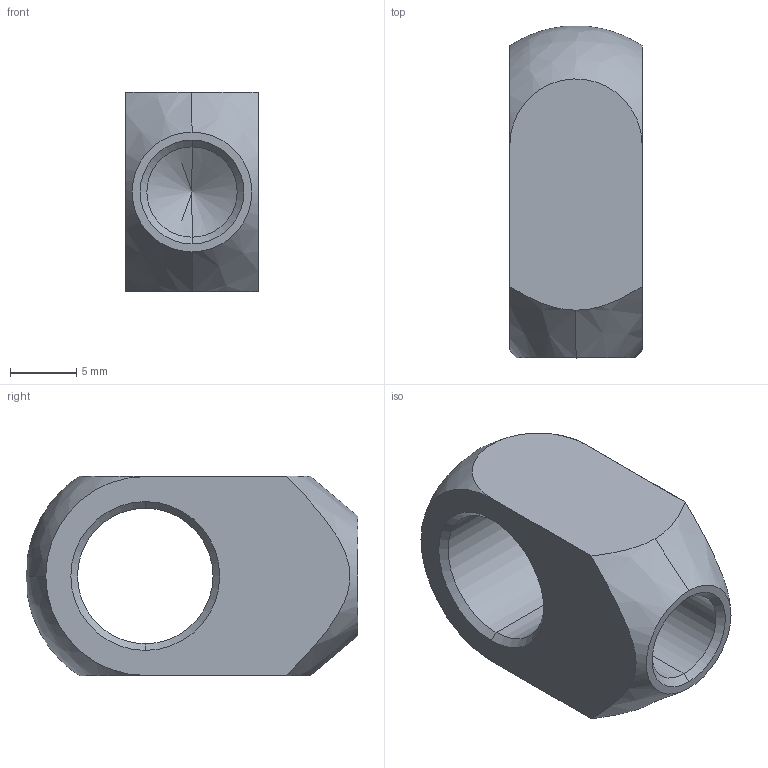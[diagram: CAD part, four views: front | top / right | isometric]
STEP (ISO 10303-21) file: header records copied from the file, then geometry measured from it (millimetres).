
FILE_DESCRIPTION (( 'STEP AP214' ), '1' );
FILE_NAME ('18.08A1FASEGAT10.2.STEP', '2017-10-21T13:03:26', ( '' ), ( '' ), 'SwSTEP 2.0', 'SolidWorks 2016', '' );
FILE_SCHEMA (( 'AUTOMOTIVE_DESIGN' ));
Length unit declared in the file: millimetre
Products named in the file (1): 18.08A1FASEGAT10.2
Bounding box: 10 x 24.97 x 15 mm (x, y, z)
Volume: 2163.3 mm3; surface area: 1603.6 mm2
Topology: 1 solids, 1 shells, 25 faces, 61 edges, 37 vertices
Faces by surface type: cone 10, cylinder 8, plane 5, bspline 2
Entity records: 934 total; most frequent: CARTESIAN_POINT 316, DIRECTION 128, ORIENTED_EDGE 118, EDGE_CURVE 59, AXIS2_PLACEMENT_3D 53, VERTEX_POINT 37, CIRCLE 29, EDGE_LOOP 28
